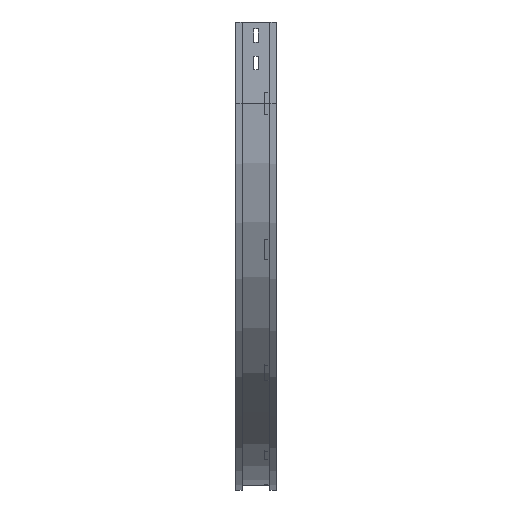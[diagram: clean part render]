
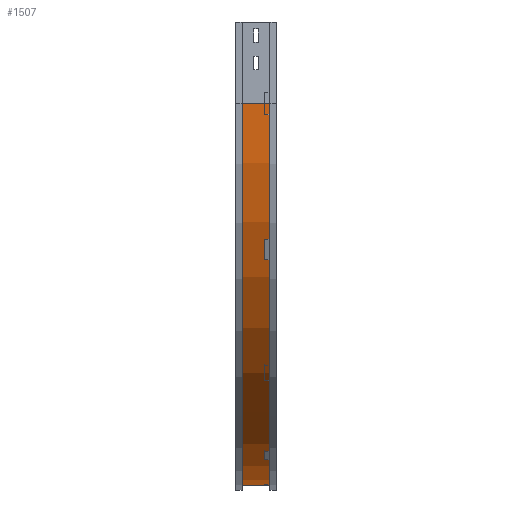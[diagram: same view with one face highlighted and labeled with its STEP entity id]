
A CAD part, left-side view. The second image highlights one B-rep face of the part: STEP entity #1507.
In plain terms, the highlighted cylindrical face has radius 700 mm (diameter 1400 mm), a partial arc.
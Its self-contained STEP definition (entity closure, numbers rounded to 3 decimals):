
#7 = DIRECTION ( 'NONE',  ( 0., -1., 0. ) ) ;
#16 = ORIENTED_EDGE ( 'NONE', *, *, #1821, .F. ) ;
#23 = EDGE_LOOP ( 'NONE', ( #1674, #16, #156, #702 ) ) ;
#145 = CARTESIAN_POINT ( 'NONE',  ( 709., 12., -850. ) ) ;
#156 = ORIENTED_EDGE ( 'NONE', *, *, #1633, .T. ) ;
#273 = FACE_OUTER_BOUND ( 'NONE', #23, .T. ) ;
#314 = VERTEX_POINT ( 'NONE', #1713 ) ;
#461 = VERTEX_POINT ( 'NONE', #1324 ) ;
#664 = DIRECTION ( 'NONE',  ( -1., 0., 0. ) ) ;
#702 = ORIENTED_EDGE ( 'NONE', *, *, #1083, .T. ) ;
#721 = DIRECTION ( 'NONE',  ( -1., 0., 0. ) ) ;
#879 = CARTESIAN_POINT ( 'NONE',  ( 9., 12., -150. ) ) ;
#895 = LINE ( 'NONE', #879, #2272 ) ;
#906 = LINE ( 'NONE', #145, #1724 ) ;
#1066 = CYLINDRICAL_SURFACE ( 'NONE', #2624, 700. ) ;
#1078 = CIRCLE ( 'NONE', #1392, 700. ) ;
#1083 = EDGE_CURVE ( 'NONE', #1949, #314, #906, .T. ) ;
#1324 = CARTESIAN_POINT ( 'NONE',  ( 9., 12., -150. ) ) ;
#1392 = AXIS2_PLACEMENT_3D ( 'NONE', #1462, #2781, #664 ) ;
#1462 = CARTESIAN_POINT ( 'NONE',  ( 709., 63., -150. ) ) ;
#1507 = ADVANCED_FACE ( 'NONE', ( #273 ), #1066, .T. ) ;
#1586 = CIRCLE ( 'NONE', #2265, 700. ) ;
#1633 = EDGE_CURVE ( 'NONE', #3100, #1949, #1078, .T. ) ;
#1674 = ORIENTED_EDGE ( 'NONE', *, *, #2577, .F. ) ;
#1713 = CARTESIAN_POINT ( 'NONE',  ( 709., 12., -850. ) ) ;
#1724 = VECTOR ( 'NONE', #2481, 1000. ) ;
#1821 = EDGE_CURVE ( 'NONE', #3100, #461, #895, .T. ) ;
#1949 = VERTEX_POINT ( 'NONE', #2809 ) ;
#2116 = DIRECTION ( 'NONE',  ( 0., 0., -1. ) ) ;
#2265 = AXIS2_PLACEMENT_3D ( 'NONE', #3432, #3366, #721 ) ;
#2272 = VECTOR ( 'NONE', #2699, 1000. ) ;
#2384 = CARTESIAN_POINT ( 'NONE',  ( 709., 0., -150. ) ) ;
#2481 = DIRECTION ( 'NONE',  ( 0., -1., 0. ) ) ;
#2577 = EDGE_CURVE ( 'NONE', #461, #314, #1586, .T. ) ;
#2624 = AXIS2_PLACEMENT_3D ( 'NONE', #2384, #7, #2116 ) ;
#2699 = DIRECTION ( 'NONE',  ( 0., -1., 0. ) ) ;
#2781 = DIRECTION ( 'NONE',  ( 0., -1., 0. ) ) ;
#2809 = CARTESIAN_POINT ( 'NONE',  ( 709., 63., -850. ) ) ;
#3100 = VERTEX_POINT ( 'NONE', #3219 ) ;
#3219 = CARTESIAN_POINT ( 'NONE',  ( 9., 63., -150. ) ) ;
#3366 = DIRECTION ( 'NONE',  ( 0., -1., 0. ) ) ;
#3432 = CARTESIAN_POINT ( 'NONE',  ( 709., 12., -150. ) ) ;
